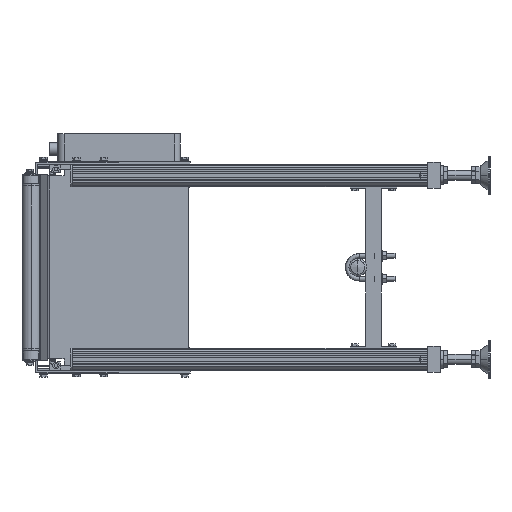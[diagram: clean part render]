
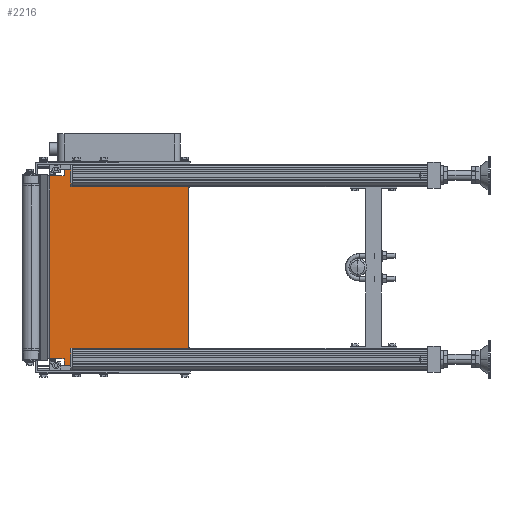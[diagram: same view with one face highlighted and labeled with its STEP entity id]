
A CAD part, left-side view. The second image highlights one B-rep face of the part: STEP entity #2216.
In plain terms, the highlighted planar face has unit normal (-1, 0, 0).
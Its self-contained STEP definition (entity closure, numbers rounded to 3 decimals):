
#2216=ADVANCED_FACE('',(#7713,#7714,#7715),#7712,.F.);
#7712=PLANE('',#33759);
#7713=FACE_OUTER_BOUND('',#33760,.T.);
#7714=FACE_BOUND('',#33761,.T.);
#7715=FACE_BOUND('',#33762,.T.);
#33756=CARTESIAN_POINT('',(301.9,-275.,176.));
#33757=DIRECTION('',(1.,0.,0.));
#33758=DIRECTION('',(0.,0.,-1.));
#33759=AXIS2_PLACEMENT_3D('',#33756,#33757,#33758);
#33760=EDGE_LOOP('',(#48234,#48235,#48236,#48237,#48238,#48239,#48240,#48241,#48242,#48243,#48244,#48245,#48246,#48247));
#33761=EDGE_LOOP('',(#48248,#48249,#48250,#48251));
#33762=EDGE_LOOP('',(#48252,#48253,#48254,#48255));
#48234=ORIENTED_EDGE('',*,*,#61221,.T.);
#48235=ORIENTED_EDGE('',*,*,#61421,.T.);
#48236=ORIENTED_EDGE('',*,*,#61215,.T.);
#48237=ORIENTED_EDGE('',*,*,#61422,.T.);
#48238=ORIENTED_EDGE('',*,*,#61423,.T.);
#48239=ORIENTED_EDGE('',*,*,#61180,.T.);
#48240=ORIENTED_EDGE('',*,*,#61424,.T.);
#48241=ORIENTED_EDGE('',*,*,#61425,.T.);
#48242=ORIENTED_EDGE('',*,*,#61150,.T.);
#48243=ORIENTED_EDGE('',*,*,#61387,.T.);
#48244=ORIENTED_EDGE('',*,*,#61419,.T.);
#48245=ORIENTED_EDGE('',*,*,#61414,.T.);
#48246=ORIENTED_EDGE('',*,*,#61410,.T.);
#48247=ORIENTED_EDGE('',*,*,#61417,.T.);
#48248=ORIENTED_EDGE('',*,*,#61426,.T.);
#48249=ORIENTED_EDGE('',*,*,#61427,.T.);
#48250=ORIENTED_EDGE('',*,*,#61428,.T.);
#48251=ORIENTED_EDGE('',*,*,#61429,.T.);
#48252=ORIENTED_EDGE('',*,*,#61430,.T.);
#48253=ORIENTED_EDGE('',*,*,#61431,.T.);
#48254=ORIENTED_EDGE('',*,*,#61432,.T.);
#48255=ORIENTED_EDGE('',*,*,#61433,.T.);
#61150=EDGE_CURVE('',#70984,#70976,#70985,.T.);
#61180=EDGE_CURVE('',#71192,#71193,#71194,.T.);
#61215=EDGE_CURVE('',#71434,#71435,#71436,.T.);
#61221=EDGE_CURVE('',#71476,#71477,#71478,.T.);
#61387=EDGE_CURVE('',#70976,#72585,#72592,.T.);
#61410=EDGE_CURVE('',#72737,#72738,#72739,.T.);
#61414=EDGE_CURVE('',#72765,#72737,#72766,.T.);
#61417=EDGE_CURVE('',#72738,#71476,#72785,.T.);
#61419=EDGE_CURVE('',#72585,#72765,#72797,.T.);
#61421=EDGE_CURVE('',#71477,#71434,#72809,.T.);
#61422=EDGE_CURVE('',#71435,#72815,#72816,.T.);
#61423=EDGE_CURVE('',#72815,#71192,#72822,.T.);
#61424=EDGE_CURVE('',#71193,#72828,#72829,.T.);
#61425=EDGE_CURVE('',#72828,#70984,#72835,.T.);
#61426=EDGE_CURVE('',#72841,#72842,#72843,.T.);
#61427=EDGE_CURVE('',#72842,#72849,#72850,.T.);
#61428=EDGE_CURVE('',#72849,#72856,#72857,.T.);
#61429=EDGE_CURVE('',#72856,#72841,#72863,.T.);
#61430=EDGE_CURVE('',#72869,#72870,#72871,.T.);
#61431=EDGE_CURVE('',#72870,#72877,#72878,.T.);
#61432=EDGE_CURVE('',#72877,#72884,#72885,.T.);
#61433=EDGE_CURVE('',#72884,#72869,#72891,.T.);
#70976=VERTEX_POINT('',#115645);
#70984=VERTEX_POINT('',#115650);
#70985=LINE('',#115651,#115652);
#71192=VERTEX_POINT('',#115772);
#71193=VERTEX_POINT('',#115773);
#71194=LINE('',#115774,#115775);
#71434=VERTEX_POINT('',#115909);
#71435=VERTEX_POINT('',#115910);
#71436=LINE('',#115911,#115912);
#71476=VERTEX_POINT('',#115933);
#71477=VERTEX_POINT('',#115934);
#71478=LINE('',#115935,#115936);
#72585=VERTEX_POINT('',#116575);
#72592=LINE('',#116579,#116580);
#72737=VERTEX_POINT('',#116663);
#72738=VERTEX_POINT('',#116664);
#72739=LINE('',#116665,#116666);
#72765=VERTEX_POINT('',#116679);
#72766=LINE('',#116680,#116681);
#72785=LINE('',#116690,#116691);
#72797=LINE('',#116696,#116697);
#72809=LINE('',#116702,#116703);
#72815=VERTEX_POINT('',#116705);
#72816=LINE('',#116706,#116707);
#72822=LINE('',#116709,#116710);
#72828=VERTEX_POINT('',#116712);
#72829=LINE('',#116713,#116714);
#72835=LINE('',#116716,#116717);
#72841=VERTEX_POINT('',#116719);
#72842=VERTEX_POINT('',#116720);
#72843=LINE('',#116721,#116722);
#72849=VERTEX_POINT('',#116724);
#72850=LINE('',#116725,#116726);
#72856=VERTEX_POINT('',#116728);
#72857=LINE('',#116729,#116730);
#72863=LINE('',#116732,#116733);
#72869=VERTEX_POINT('',#116735);
#72870=VERTEX_POINT('',#116736);
#72871=LINE('',#116737,#116738);
#72877=VERTEX_POINT('',#116740);
#72878=LINE('',#116741,#116742);
#72884=VERTEX_POINT('',#116744);
#72885=LINE('',#116745,#116746);
#72891=LINE('',#116748,#116749);
#115645=CARTESIAN_POINT('',(301.9,-248.357,158.));
#115650=CARTESIAN_POINT('',(301.9,-252.,158.));
#115651=CARTESIAN_POINT('',(301.9,-252.,158.));
#115652=VECTOR('',#115653,3.643);
#115653=DIRECTION('',(0.,1.,0.));
#115772=CARTESIAN_POINT('',(301.9,-265.,-166.));
#115773=CARTESIAN_POINT('',(301.9,-265.,166.));
#115774=CARTESIAN_POINT('',(301.9,-265.,-166.));
#115775=VECTOR('',#115776,332.);
#115776=DIRECTION('',(0.,0.,1.));
#115909=CARTESIAN_POINT('',(301.9,-248.357,-158.));
#115910=CARTESIAN_POINT('',(301.9,-252.,-158.));
#115911=CARTESIAN_POINT('',(301.9,-248.357,-158.));
#115912=VECTOR('',#115913,3.643);
#115913=DIRECTION('',(0.,-1.,0.));
#115933=CARTESIAN_POINT('',(301.9,-65.,-147.));
#115934=CARTESIAN_POINT('',(301.9,-65.,-158.));
#115935=CARTESIAN_POINT('',(301.9,-65.,-147.));
#115936=VECTOR('',#115937,11.);
#115937=DIRECTION('',(0.,0.,-1.));
#116575=CARTESIAN_POINT('',(301.9,-65.,158.));
#116579=CARTESIAN_POINT('',(301.9,-248.357,158.));
#116580=VECTOR('',#116581,183.357);
#116581=DIRECTION('',(0.,1.,0.));
#116663=CARTESIAN_POINT('',(301.9,-42.,147.));
#116664=CARTESIAN_POINT('',(301.9,-42.,-147.));
#116665=CARTESIAN_POINT('',(301.9,-42.,147.));
#116666=VECTOR('',#116667,294.);
#116667=DIRECTION('',(0.,0.,-1.));
#116679=CARTESIAN_POINT('',(301.9,-65.,147.));
#116680=CARTESIAN_POINT('',(301.9,-65.,147.));
#116681=VECTOR('',#116682,23.);
#116682=DIRECTION('',(0.,1.,0.));
#116690=CARTESIAN_POINT('',(301.9,-42.,-147.));
#116691=VECTOR('',#116692,23.);
#116692=DIRECTION('',(0.,-1.,0.));
#116696=CARTESIAN_POINT('',(301.9,-65.,158.));
#116697=VECTOR('',#116698,11.);
#116698=DIRECTION('',(0.,0.,-1.));
#116702=CARTESIAN_POINT('',(301.9,-65.,-158.));
#116703=VECTOR('',#116704,183.357);
#116704=DIRECTION('',(0.,-1.,0.));
#116705=CARTESIAN_POINT('',(301.9,-252.,-166.));
#116706=CARTESIAN_POINT('',(301.9,-252.,-158.));
#116707=VECTOR('',#116708,8.);
#116708=DIRECTION('',(0.,0.,-1.));
#116709=CARTESIAN_POINT('',(301.9,-252.,-166.));
#116710=VECTOR('',#116711,13.);
#116711=DIRECTION('',(0.,-1.,0.));
#116712=CARTESIAN_POINT('',(301.9,-252.,166.));
#116713=CARTESIAN_POINT('',(301.9,-265.,166.));
#116714=VECTOR('',#116715,13.);
#116715=DIRECTION('',(0.,1.,0.));
#116716=CARTESIAN_POINT('',(301.9,-252.,166.));
#116717=VECTOR('',#116718,8.);
#116718=DIRECTION('',(0.,0.,-1.));
#116719=CARTESIAN_POINT('',(301.9,-96.5,132.7));
#116720=CARTESIAN_POINT('',(301.9,-96.5,157.2));
#116721=CARTESIAN_POINT('',(301.9,-96.5,132.7));
#116722=VECTOR('',#116723,24.5);
#116723=DIRECTION('',(0.,0.,1.));
#116724=CARTESIAN_POINT('',(301.9,-111.5,157.2));
#116725=CARTESIAN_POINT('',(301.9,-96.5,157.2));
#116726=VECTOR('',#116727,15.);
#116727=DIRECTION('',(0.,-1.,0.));
#116728=CARTESIAN_POINT('',(301.9,-111.5,132.7));
#116729=CARTESIAN_POINT('',(301.9,-111.5,157.2));
#116730=VECTOR('',#116731,24.5);
#116731=DIRECTION('',(0.,0.,-1.));
#116732=CARTESIAN_POINT('',(301.9,-111.5,132.7));
#116733=VECTOR('',#116734,15.);
#116734=DIRECTION('',(0.,1.,0.));
#116735=CARTESIAN_POINT('',(301.9,-96.5,-157.2));
#116736=CARTESIAN_POINT('',(301.9,-96.5,-132.7));
#116737=CARTESIAN_POINT('',(301.9,-96.5,-157.2));
#116738=VECTOR('',#116739,24.5);
#116739=DIRECTION('',(0.,0.,1.));
#116740=CARTESIAN_POINT('',(301.9,-111.5,-132.7));
#116741=CARTESIAN_POINT('',(301.9,-96.5,-132.7));
#116742=VECTOR('',#116743,15.);
#116743=DIRECTION('',(0.,-1.,0.));
#116744=CARTESIAN_POINT('',(301.9,-111.5,-157.2));
#116745=CARTESIAN_POINT('',(301.9,-111.5,-132.7));
#116746=VECTOR('',#116747,24.5);
#116747=DIRECTION('',(0.,0.,-1.));
#116748=CARTESIAN_POINT('',(301.9,-111.5,-157.2));
#116749=VECTOR('',#116750,15.);
#116750=DIRECTION('',(0.,1.,0.));
